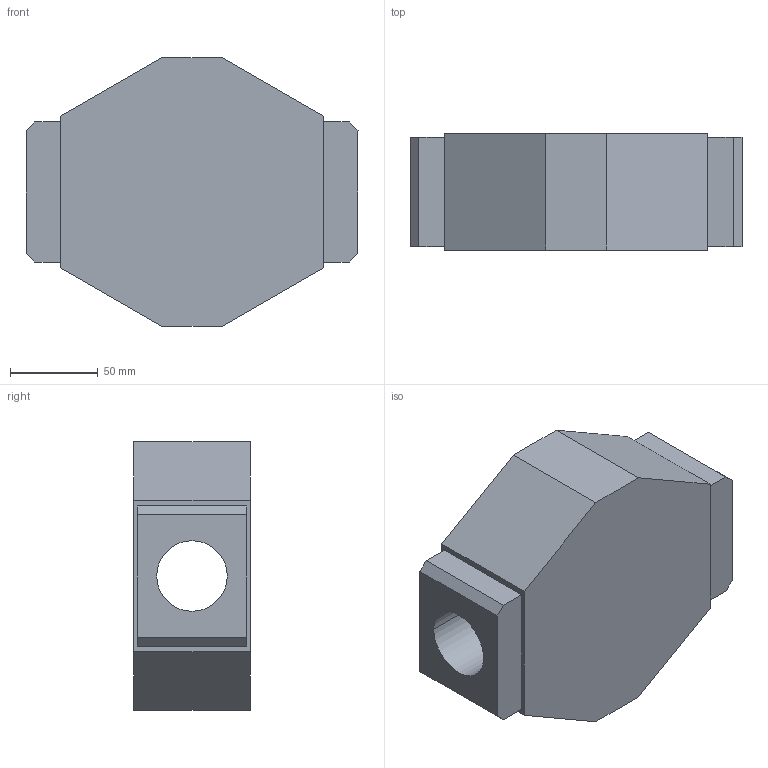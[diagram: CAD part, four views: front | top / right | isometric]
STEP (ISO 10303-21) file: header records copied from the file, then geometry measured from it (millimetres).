
FILE_DESCRIPTION (( 'STEP AP214' ), '1' );
FILE_NAME ('IRB4400_60_m2000_rev1_01-12.STEP', '2001-11-21T06:49:58', ( 'Jonas Eriksson' ), ( 'Evotech Engineering AB' ), 'SwSTEP 2.0', 'SolidWorks 2001287', '' );
FILE_SCHEMA (( 'AUTOMOTIVE_DESIGN' ));
Length unit declared in the file: millimetre
Products named in the file (1): IRB4400_60_m2000_rev1_01-12
Bounding box: 189.5 x 66.5 x 153.21 mm (x, y, z)
Volume: 1225762.8 mm3; surface area: 104453 mm2
Topology: 1 solids, 1 shells, 48 faces, 126 edges, 84 vertices
Faces by surface type: plane 46, cylinder 2
Entity records: 1481 total; most frequent: CARTESIAN_POINT 259, ORIENTED_EDGE 252, DIRECTION 228, EDGE_CURVE 126, LINE 122, VECTOR 122, VERTEX_POINT 84, EDGE_LOOP 54
